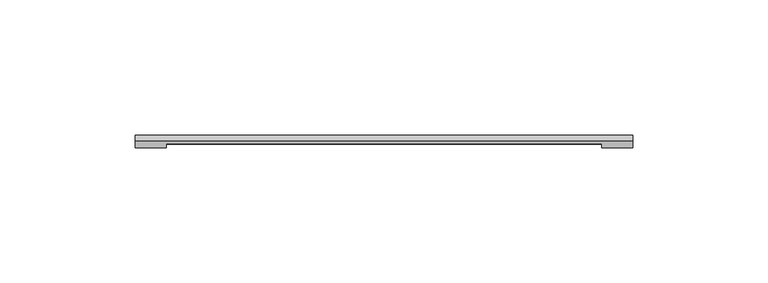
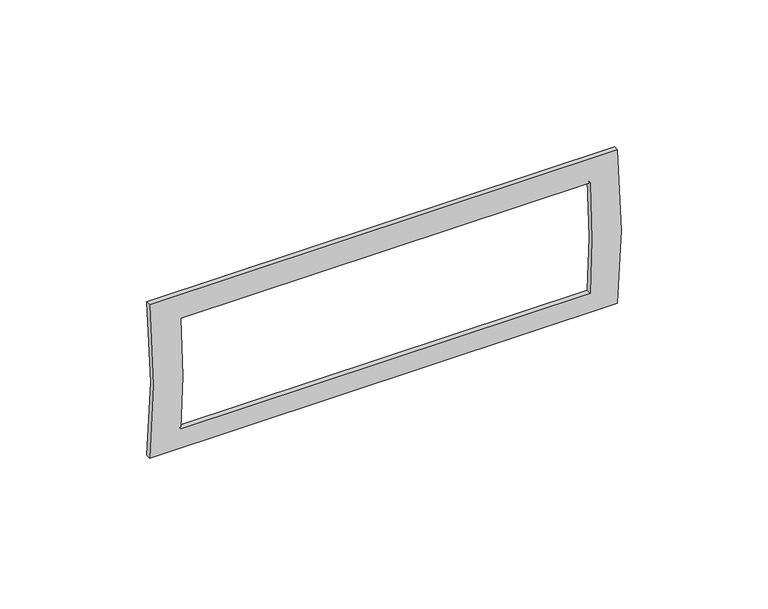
"""IFC4 building model written with IfcOpenShell, lengths in millimetres: proxy geometry, КНС_РамкаУниверсальная_ILF_DKC : 6 модулей."""

import ifcopenshell
import ifcopenshell.guid

model = None  # the IFC model being written
_history = None  # IfcOwnerHistory: only IFC2X3 demands one
_inside = {}  # id of a spatial element -> (the spatial element, [elements in it])
_under = {}  # id of a project, library or spatial element -> (it, [spatial elements below it])
_declared = {}  # id of a project -> (the project, [libraries it declares])
_typed = {}  # id of a type object -> (the type object, [elements of that type])
_made_of = {}  # id of a material, layer set ... -> (it, [elements and type objects made of it])


def new_model(schema):
    """Start an empty IFC model of exactly this schema.

    Asked for "IFC4X3", IfcOpenShell would pick the latest addendum, in which some entities
    have other attributes; the version numbers below select the first issue.
    IFC2X3 requires an IfcOwnerHistory on every rooted entity: one is made here for all.
    """
    global model, _history
    if schema == "IFC4X3":
        model = ifcopenshell.file(schema_version=(4, 3, 0, 0))
    else:
        model = ifcopenshell.file(schema=schema)
    _inside.clear()
    _under.clear()
    _declared.clear()
    _typed.clear()
    _made_of.clear()
    _history = None
    if model.schema == "IFC2X3":
        org = make("IfcOrganization", Name="unknown")
        user = make(
            "IfcPersonAndOrganization",
            ThePerson=make("IfcPerson", FamilyName="unknown"),
            TheOrganization=org,
        )
        app = make(
            "IfcApplication",
            ApplicationDeveloper=org,
            Version="unknown",
            ApplicationFullName="unknown",
            ApplicationIdentifier="unknown",
        )
        _history = make(
            "IfcOwnerHistory",
            OwningUser=user,
            OwningApplication=app,
            ChangeAction="ADDED",
            CreationDate=0,
        )
    return model


def make(cls, **values):
    """One entity of the class cls with the attributes given. An attribute that is None is left unset."""
    return model.create_entity(
        cls, **{name: value for name, value in values.items() if value is not None}
    )


def rooted(cls, **values):
    """An entity with a GlobalId (a new one), such as an element, a storey or a relation."""
    return make(cls, GlobalId=ifcopenshell.guid.new(), OwnerHistory=_history, **values)


def si_unit(unit_type, name, prefix=None):
    """IfcSIUnit, for example si_unit("LENGTHUNIT", "METRE", prefix="MILLI")."""
    return make("IfcSIUnit", UnitType=unit_type, Prefix=prefix, Name=name)


def assignment(units):
    """IfcUnitAssignment: the units of a project."""
    return None if units is None else make("IfcUnitAssignment", Units=units)


def point(xyz):
    """IfcCartesianPoint."""
    return None if xyz is None else make("IfcCartesianPoint", Coordinates=xyz)


def direction(xyz):
    """IfcDirection."""
    return None if xyz is None else make("IfcDirection", DirectionRatios=xyz)


def frame(location, z_axis=None, x_axis=None):
    """IfcAxis2Placement3D, a coordinate frame: its origin and axes. An axis left out is left unset."""
    return make(
        "IfcAxis2Placement3D",
        Location=point(location),
        Axis=direction(z_axis),
        RefDirection=direction(x_axis),
    )


def origin():
    """The frame at (0, 0, 0) with its axes left unset."""
    return frame((0.0, 0.0, 0.0))


def place(relative_to, where):
    """IfcLocalPlacement: puts the frame where relative to a parent placement (None: the world)."""
    return make(
        "IfcLocalPlacement", PlacementRelTo=relative_to, RelativePlacement=where
    )


def context(
    kind, dimensions, precision=None, world=None, true_north=None, identifier=None
):
    """IfcGeometricRepresentationContext, for example the 3D "Model" context."""
    return make(
        "IfcGeometricRepresentationContext",
        ContextIdentifier=identifier,
        ContextType=kind,
        CoordinateSpaceDimension=dimensions,
        Precision=precision,
        WorldCoordinateSystem=world,
        TrueNorth=true_north,
    )


def project(units=None, contexts=None):
    """IfcProject with its units and contexts."""
    return rooted(
        "IfcProject",
        Name="project",
        RepresentationContexts=contexts,
        UnitsInContext=assignment(units),
    )


def spatial(cls, under=None, at=None, **own):
    """A site, building, storey or space (cls), placed at a placement, below another one or the project."""
    s = rooted(cls, ObjectPlacement=at, **own)
    if under is not None:
        _under.setdefault(under.id(), (under, []))[1].append(s)
    return s


def polyline(points):
    """IfcPolyline through the points."""
    return make("IfcPolyline", Points=[point(p) for p in points])


def circle_curve(where, radius):
    """IfcCircle in the frame where."""
    return make("IfcCircle", Position=where, Radius=radius)


def shape(context_of_items, identifier, shape_type, items):
    """IfcShapeRepresentation: the items that make up one representation, for example the "Body"."""
    return make(
        "IfcShapeRepresentation",
        ContextOfItems=context_of_items,
        RepresentationIdentifier=identifier,
        RepresentationType=shape_type,
        Items=items,
    )


def source(mapping_origin, context_of_items, identifier, shape_type, items):
    """IfcRepresentationMap: a shape defined once, which mapped items show again and again."""
    return make(
        "IfcRepresentationMap",
        MappingOrigin=mapping_origin,
        MappedRepresentation=shape(context_of_items, identifier, shape_type, items),
    )


def transform(
    local_origin,
    x_axis=None,
    y_axis=None,
    z_axis=None,
    scale=None,
    scale2=None,
    scale3=None,
    uniform=True,
):
    """IfcCartesianTransformationOperator3D, or its non-uniform kind. x_axis, y_axis, z_axis: its Axis1, 2, 3."""
    if uniform:
        return make(
            "IfcCartesianTransformationOperator3D",
            Axis1=direction(x_axis),
            Axis2=direction(y_axis),
            LocalOrigin=point(local_origin),
            Scale=scale,
            Axis3=direction(z_axis),
        )
    return make(
        "IfcCartesianTransformationOperator3DnonUniform",
        Axis1=direction(x_axis),
        Axis2=direction(y_axis),
        LocalOrigin=point(local_origin),
        Scale=scale,
        Axis3=direction(z_axis),
        Scale2=scale2,
        Scale3=scale3,
    )


def mapped(mapping_source, mapping_target):
    """IfcMappedItem: shows the shape of a source again, moved by a transform."""
    return make(
        "IfcMappedItem", MappingSource=mapping_source, MappingTarget=mapping_target
    )


def made_of(thing, what):
    """Note that an element or type object is made of a material, layer set ...; save() writes the relation."""
    if what is not None:
        _made_of.setdefault(what.id(), (what, []))[1].append(thing)
    return thing


def element(
    cls,
    number,
    at=None,
    inside=None,
    cuts=None,
    type_object=None,
    material=None,
    context=None,
    identifier="Body",
    shape_type=None,
    held_by="IfcProductDefinitionShape",
    body=None,
    shapes=None,
    **own,
):
    """One element of the class cls, such as IfcWall. Its Tag is "e" and its number.

    at: its placement. inside: the storey or other place that contains it. cuts: it is an
    opening in that element (IfcRelVoidsElement). A single representation is given by context,
    identifier, shape_type and body (its items); several are given by shapes. held_by: the class
    of the entity that holds the representations. save() writes the other relations.
    """
    e = rooted(cls, Tag="e%d" % number, ObjectPlacement=at, **own)
    if body is not None:
        shapes = [shape(context, identifier, shape_type, body)]
    if shapes is not None:
        e.Representation = make(held_by, Representations=shapes)
    if inside is not None:
        _inside.setdefault(inside.id(), (inside, []))[1].append(e)
    if cuts is not None:
        rooted(
            "IfcRelVoidsElement", RelatingBuildingElement=cuts, RelatedOpeningElement=e
        )
    if type_object is not None:
        _typed.setdefault(type_object.id(), (type_object, []))[1].append(e)
    return made_of(e, material)


def aggregate(whole, parts):
    """IfcRelAggregates: a whole, such as a stair, and the parts it consists of."""
    return rooted("IfcRelAggregates", RelatingObject=whole, RelatedObjects=parts)


def save(model, path):
    """Write the relations noted so far, then the file.

    IfcRelAggregates (storeys below a building ...), IfcRelContainedInSpatialStructure (elements
    in a storey), IfcRelDefinesByType, IfcRelAssociatesMaterial and IfcRelDeclares: one each for
    every whole, place, type object, material and project.
    """
    for whole, parts in _under.values():
        aggregate(whole, parts)
    for where, things in _inside.values():
        rooted(
            "IfcRelContainedInSpatialStructure",
            RelatedElements=things,
            RelatingStructure=where,
        )
    for kind, things in _typed.values():
        rooted("IfcRelDefinesByType", RelatedObjects=things, RelatingType=kind)
    for what, things in _made_of.values():
        rooted("IfcRelAssociatesMaterial", RelatedObjects=things, RelatingMaterial=what)
    for by, libraries in _declared.values():
        rooted("IfcRelDeclares", RelatingContext=by, RelatedDefinitions=libraries)
    model.write(path)


def plane_surface(at):
    """IfcPlane: the flat surface through the origin of the frame at, square to its z axis."""
    return make("IfcPlane", Position=at)


def cylinder_surface(at, radius):
    """IfcCylindricalSurface: all points at the distance radius from the z axis of the frame at."""
    return make("IfcCylindricalSurface", Position=at, Radius=radius)


def revolved_surface(curve, axis_point, axis_direction):
    """IfcSurfaceOfRevolution: the curve turned about the line through axis_point along axis_direction."""
    return make(
        "IfcSurfaceOfRevolution",
        SweptCurve=make("IfcArbitraryOpenProfileDef", ProfileType="CURVE", Curve=curve),
        AxisPosition=make("IfcAxis1Placement", Location=point(axis_point), Axis=direction(axis_direction)),
    )


def advanced_brep(points, edges, surfaces, faces):
    """IfcAdvancedBrep: a solid bounded by faces that lie on surfaces and meet in shared edges.

    An edge is (start, end): straight between two places in points (the first is 0);
    or (start, end, curve); or (start, end, curve, False) where it runs against its curve.
    A face is (place in surfaces, loops), or (place, loops, False) where it looks against
    its surface's normal. A loop lists edges by number (the first is 1), with a minus sign
    where the edge is run from its end to its start. The first loop is the outer one.
    """
    corners = [point(p) for p in points]
    vertices = [make("IfcVertexPoint", VertexGeometry=c) for c in corners]
    made = []
    for start, end, *more in edges:
        made.append(
            make(
                "IfcEdgeCurve",
                EdgeStart=vertices[start],
                EdgeEnd=vertices[end],
                EdgeGeometry=more[0] if more else make("IfcPolyline", Points=[corners[start], corners[end]]),
                SameSense=more[1] if len(more) > 1 else True,
            )
        )
    hull = []
    for where, loops, *sense in faces:
        bounds = []
        for j, loop in enumerate(loops):
            ring = [make("IfcOrientedEdge", EdgeElement=made[abs(k) - 1], Orientation=k > 0) for k in loop]
            bounds.append(
                make(
                    "IfcFaceOuterBound" if j == 0 else "IfcFaceBound",
                    Bound=make("IfcEdgeLoop", EdgeList=ring),
                    Orientation=True,
                )
            )
        hull.append(make("IfcAdvancedFace", Bounds=bounds, FaceSurface=surfaces[where], SameSense=sense[0] if sense else True))
    return make("IfcAdvancedBrep", Outer=make("IfcClosedShell", CfsFaces=hull))


def electrical_fixtures_8c2a11af(model_context):
    return source(origin(), model_context, "Body", "AdvancedBrep", [
        advanced_brep(
        [(80.5, -3.2414184, 22.9768143), (80.5, -1.2414184, 22.9768143), (80.5, -1.2414184, -22.9768143), (80.5, -3.2414184, -22.9768143), (-80.5, -3.2414184, -22.9768143), (-80.5, -1.2414184, -22.9768143), (-80.5, -1.2414184, 22.9768143), (-80.5, -3.2414184, 22.9768143), (92.0, -2.0, 31.9768143), (92.0, -2.0, -31.9768143), (92.0, 0.0, -31.9768143), (92.0, 0.0, 31.9768143), (-92.0, -2.0, 31.9768143), (-92.0, 0.0, 31.9768143), (-92.0, 0.0, -31.9768143), (-92.0, -2.0, -31.9768143)],
        [
            (0, 1),
            (1, 2, circle_curve(frame((80.5, 198.5799224, 0.0), z_axis=(1.0, 0.0, 0.0), x_axis=(0.0, 1.0, 0.0)), 201.1380178)),
            (2, 3),
            (3, 0, circle_curve(frame((80.5, 196.5799224, 0.0), z_axis=(-1.0, 0.0, 0.0), x_axis=(0.0, 1.0, 0.0)), 201.1380178)),
            (4, 5),
            (5, 6, circle_curve(frame((-80.5, 198.5799224, 0.0), z_axis=(-1.0, 0.0, 0.0), x_axis=(0.0, 1.0, 0.0)), 201.1380178)),
            (6, 7),
            (7, 4, circle_curve(frame((-80.5, 196.5799224, 0.0), z_axis=(1.0, 0.0, 0.0), x_axis=(0.0, 1.0, 0.0)), 201.1380178)),
            (0, 7),
            (6, 1),
            (2, 5),
            (4, 3),
            (8, 9, circle_curve(frame((92.0, 196.5799224, 0.0), z_axis=(1.0, 0.0, 0.0), x_axis=(0.0, 1.0, 0.0)), 201.1380178)),
            (9, 10),
            (10, 11, circle_curve(frame((92.0, 198.5799224, 0.0), z_axis=(-1.0, 0.0, 0.0), x_axis=(0.0, 1.0, 0.0)), 201.1380178)),
            (11, 8),
            (12, 13),
            (13, 14, circle_curve(frame((-92.0, 198.5799224, 0.0), z_axis=(1.0, 0.0, 0.0), x_axis=(0.0, 1.0, 0.0)), 201.1380178)),
            (14, 15),
            (15, 12, circle_curve(frame((-92.0, 196.5799224, 0.0), z_axis=(-1.0, 0.0, 0.0), x_axis=(0.0, 1.0, 0.0)), 201.1380178)),
            (8, 12),
            (15, 9),
            (14, 10),
            (13, 11),
        ],
        [
            plane_surface(frame((80.5, 397.7179402, 0.0), z_axis=(-1.0, 0.0, 0.0), x_axis=(0.0, 0.0, 1.0))),
            plane_surface(frame((-80.5, 397.7179402, 0.0), z_axis=(1.0, 0.0, 0.0), x_axis=(0.0, 0.0, -1.0))),
            plane_surface(frame((80.5, -1.2414184, 22.9768143), z_axis=(0.0, 0.0, -1.0), x_axis=(-1.0, 0.0, 0.0))),
            plane_surface(frame((80.5, -3.2414184, -22.9768143), z_axis=(0.0, 0.0, 1.0), x_axis=(-1.0, 0.0, 0.0))),
            plane_surface(frame((92.0, 397.7179402, 0.0), z_axis=(1.0, 0.0, 0.0), x_axis=(0.0, 0.0, 1.0))),
            plane_surface(frame((-92.0, 397.7179402, 0.0), z_axis=(-1.0, 0.0, 0.0), x_axis=(0.0, 0.0, -1.0))),
            cylinder_surface(frame((-92.0, 196.5799224, 0.0), z_axis=(1.0, 0.0, 0.0), x_axis=(0.0, 1.0, 0.0)), 201.1380178),
            plane_surface(frame((92.0, -2.0, -31.9768143), z_axis=(0.0, 0.0, -1.0), x_axis=(-1.0, 0.0, 0.0))),
            revolved_surface(polyline([(-92.0, 399.7179402, 0.0), (92.0, 399.7179402, 0.0)]), (-92.0, 198.5799224, 0.0), (-1.0, 0.0, 0.0)),
            plane_surface(frame((92.0, 0.0, 31.9768143), z_axis=(0.0, 0.0, 1.0), x_axis=(-1.0, 0.0, 0.0))),
        ],
        [
            (0, [[1, 2, 3, 4]]),
            (1, [[5, 6, 7, 8]]),
            (2, [[-1, 9, -7, 10]]),
            (3, [[-3, 11, -5, 12]]),
            (4, [[13, 14, 15, 16]]),
            (5, [[17, 18, 19, 20]]),
            (6, [[-13, 21, -20, 22], [-4, -12, -8, -9]]),
            (7, [[-14, -22, -19, 23]]),
            (8, [[-15, -23, -18, 24], [-2, -10, -6, -11]]),
            (9, [[-16, -24, -17, -21]]),
        ],
    ),
    ])


if __name__ == "__main__":
    model = new_model("IFC4")
    model_context = context("Model", 3, world=origin())
    ifc_project = project(units=[si_unit("LENGTHUNIT", "METRE", prefix="MILLI")], contexts=[model_context])
    site = spatial("IfcSite", under=ifc_project)
    building = spatial("IfcBuilding", under=site)
    placement = place(None, origin())
    electrical_fixtures_shape = electrical_fixtures_8c2a11af(model_context)
    element("IfcBuildingElementProxy", 1, Name="КНС_РамкаУниверсальная_ILF_DKC : 6 модулей", ObjectType="КНС_РамкаУниверсальная_ILF_DKC : 6 модулей", at=placement, inside=building, context=model_context, shape_type="MappedRepresentation", body=[
        mapped(electrical_fixtures_shape, transform((0.0, 0.0, 0.0), x_axis=(1.0, 0.0, 0.0), y_axis=(0.0, 1.0, 0.0), z_axis=(0.0, 0.0, 1.0))),
    ])
    save(model, "model.ifc")
